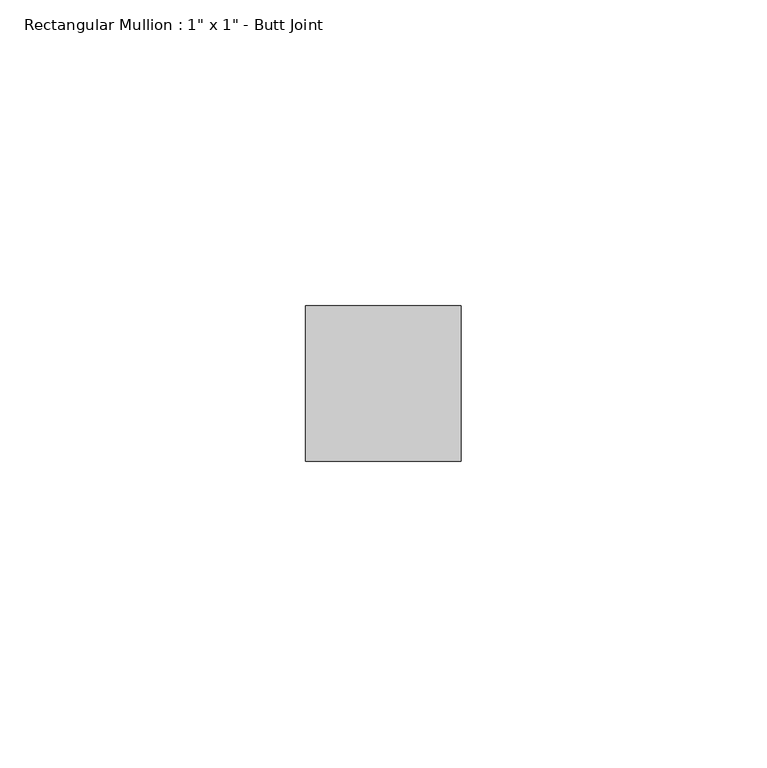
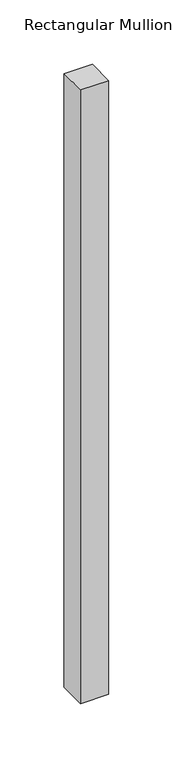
"""IFC4 building model written with IfcOpenShell, lengths in millimetres: member geometry."""

from ifc_helpers import new_model, si_unit, frame, origin, place, context, project, spatial, polyline, outline, extrude, source, transform, mapped, element, save


def member_a4d4728d(model_context):
    return source(origin(), model_context, "Body", "SweptSolid", [
        extrude(outline(polyline([(12.7, 12.7), (12.7, -12.7), (-12.7, -12.7), (-12.7, 12.7), (12.7, 12.7)])), frame((0.0, 0.0, -582.6425538), z_axis=(0.0, 0.0, 1.0), x_axis=(1.0, 0.0, 0.0)), (0.0, 0.0, 1.0), 582.6425538),
    ])


if __name__ == "__main__":
    model = new_model("IFC4")
    model_context = context("Model", 3, world=origin())
    ifc_project = project(units=[si_unit("LENGTHUNIT", "METRE", prefix="MILLI")], contexts=[model_context])
    site = spatial("IfcSite", under=ifc_project)
    building = spatial("IfcBuilding", under=site)
    placement = place(None, origin())
    member_shape = member_a4d4728d(model_context)
    element("IfcMember", 1, ObjectType="Rectangular Mullion : 1\" x 1\" - Butt Joint", at=placement, inside=building, context=model_context, shape_type="MappedRepresentation", body=[
        mapped(member_shape, transform((0.0, 0.0, 0.0), x_axis=(1.0, 0.0, 0.0), y_axis=(0.0, 1.0, 0.0), z_axis=(0.0, 0.0, 1.0))),
    ])
    save(model, "model.ifc")
